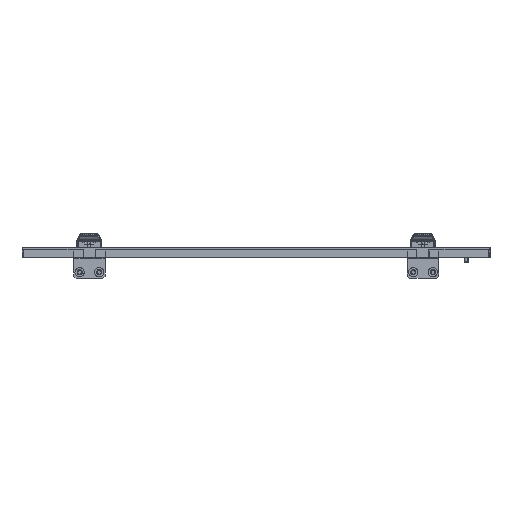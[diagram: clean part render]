
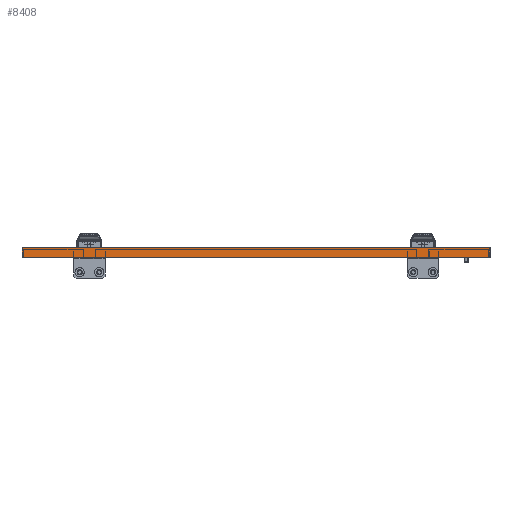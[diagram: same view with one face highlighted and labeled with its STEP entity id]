
A CAD part, left-side view. The second image highlights one B-rep face of the part: STEP entity #8408.
In plain terms, the highlighted planar face has unit normal (-1, 0, 0).
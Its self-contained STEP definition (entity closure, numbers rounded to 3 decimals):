
#214 = DIRECTION ( 'NONE',  ( 0., 0., -1. ) ) ;
#858 = LINE ( 'NONE', #7537, #7032 ) ;
#1239 = DIRECTION ( 'NONE',  ( -1., 0., 0. ) ) ;
#1345 = CARTESIAN_POINT ( 'NONE',  ( -524.77, 303.278, 996.163 ) ) ;
#1876 = CARTESIAN_POINT ( 'NONE',  ( -524.77, -228.047, 1001.001 ) ) ;
#2136 = ORIENTED_EDGE ( 'NONE', *, *, #15655, .T. ) ;
#2216 = ORIENTED_EDGE ( 'NONE', *, *, #6336, .T. ) ;
#2474 = CARTESIAN_POINT ( 'NONE',  ( -524.77, 69.953, 998.163 ) ) ;
#3000 = DIRECTION ( 'NONE',  ( 0., 0., 1. ) ) ;
#3383 = VERTEX_POINT ( 'NONE', #10171 ) ;
#3515 = LINE ( 'NONE', #1876, #8424 ) ;
#3905 = VECTOR ( 'NONE', #10372, 1000. ) ;
#4887 = CARTESIAN_POINT ( 'NONE',  ( -524.77, -228.047, 985.663 ) ) ;
#4900 = ORIENTED_EDGE ( 'NONE', *, *, #12275, .F. ) ;
#6204 = LINE ( 'NONE', #14362, #8024 ) ;
#6336 = EDGE_CURVE ( 'NONE', #19682, #3383, #6204, .T. ) ;
#7032 = VECTOR ( 'NONE', #7775, 1000. ) ;
#7296 = VERTEX_POINT ( 'NONE', #16293 ) ;
#7537 = CARTESIAN_POINT ( 'NONE',  ( -524.77, 303.278, 985.663 ) ) ;
#7579 = AXIS2_PLACEMENT_3D ( 'NONE', #1345, #1239, #3000 ) ;
#7775 = DIRECTION ( 'NONE',  ( 0., -1., 0. ) ) ;
#8024 = VECTOR ( 'NONE', #12920, 1000. ) ;
#8408 = ADVANCED_FACE ( 'NONE', ( #19688 ), #21313, .T. ) ;
#8424 = VECTOR ( 'NONE', #214, 1000. ) ;
#10171 = CARTESIAN_POINT ( 'NONE',  ( -524.77, 367.953, 985.663 ) ) ;
#10372 = DIRECTION ( 'NONE',  ( 0., 1., 0. ) ) ;
#10705 = LINE ( 'NONE', #2474, #3905 ) ;
#12275 = EDGE_CURVE ( 'NONE', #7296, #19092, #3515, .T. ) ;
#12920 = DIRECTION ( 'NONE',  ( 0., 0., -1. ) ) ;
#14362 = CARTESIAN_POINT ( 'NONE',  ( -524.77, 367.953, 1001.001 ) ) ;
#15655 = EDGE_CURVE ( 'NONE', #3383, #19092, #858, .T. ) ;
#15949 = EDGE_CURVE ( 'NONE', #7296, #19682, #10705, .T. ) ;
#16202 = EDGE_LOOP ( 'NONE', ( #2216, #2136, #4900, #18146 ) ) ;
#16293 = CARTESIAN_POINT ( 'NONE',  ( -524.77, -228.047, 998.163 ) ) ;
#18146 = ORIENTED_EDGE ( 'NONE', *, *, #15949, .T. ) ;
#19092 = VERTEX_POINT ( 'NONE', #4887 ) ;
#19682 = VERTEX_POINT ( 'NONE', #20643 ) ;
#19688 = FACE_OUTER_BOUND ( 'NONE', #16202, .T. ) ;
#20643 = CARTESIAN_POINT ( 'NONE',  ( -524.77, 367.953, 998.163 ) ) ;
#21313 = PLANE ( 'NONE',  #7579 ) ;
